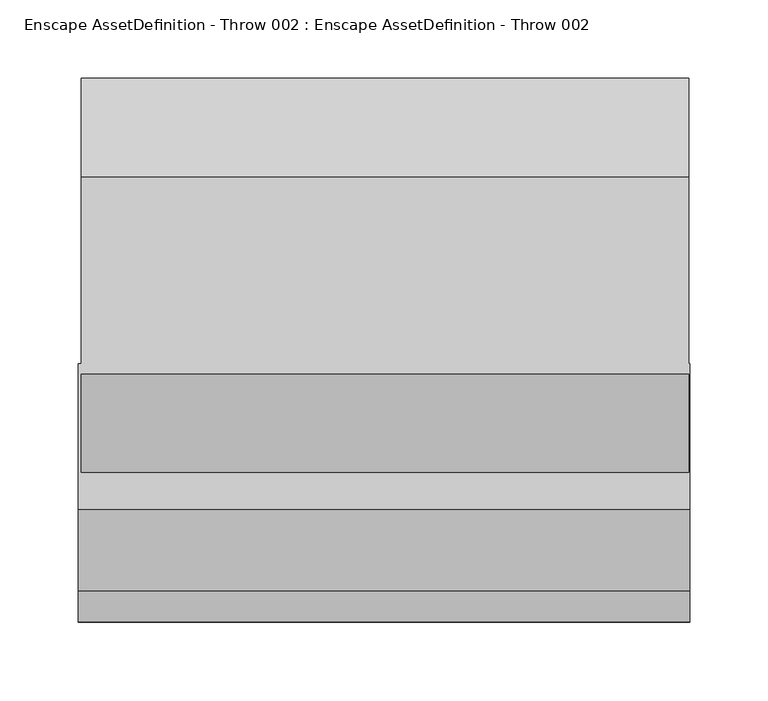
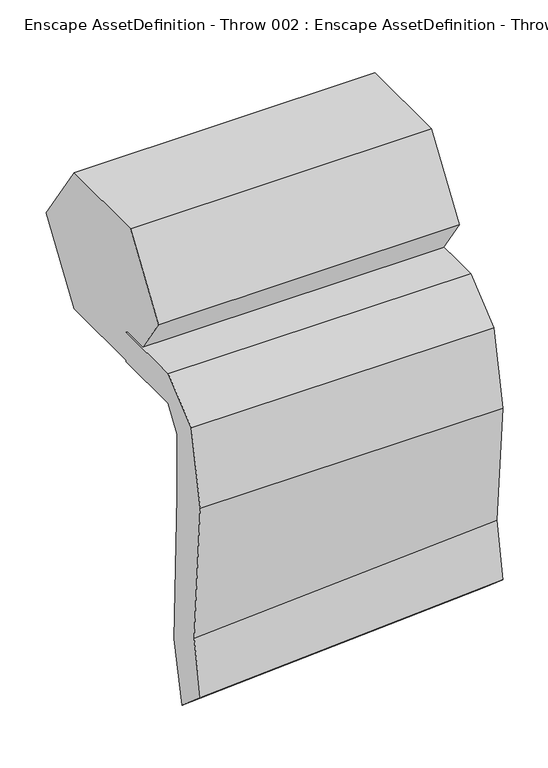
"""IFC4 building model written with IfcOpenShell, lengths in millimetres: geographic element geometry, Enscape AssetDefinition - Throw 002 : Enscape AssetDefinition - Throw 002."""

from ifc_helpers import new_model, si_unit, origin, place, context, project, spatial, triangles, source, transform, mapped, element, save


def enscape_assetdefinition_throw_002_enscape_assetdefinition_a0419d1c(model_context):
    return source(origin(), model_context, "Body", "Tessellation", [
        triangles([(194.3848283, -109.6898708, 41.3186716), (194.3848283, -16.4231913, 1.3240623), (-195.8327595, -109.6898526, 1.3240546), (194.3848283, -109.6898708, 1.3240546), (194.3847919, -161.2397402, -1.0213269), (194.3848283, -130.0184719, -28.4120239), (-195.8327595, -130.0184537, -28.4120239), (-195.8327414, -16.4231766, 1.3240546), (-195.8327414, -16.4231766, 41.3186535), (194.3848283, -16.4231913, 41.3186716), (-195.8327777, -161.2397221, -1.0213345), (-195.8327595, -109.6898526, 41.3186535), (194.3848283, -129.8877113, -112.8281422), (-195.8327595, -129.8877113, -112.8281603), (194.3848283, -181.0699252, -98.5914294), (194.3847919, -123.3210064, -287.0856743), (-195.8327595, -123.3209882, -311.1005602), (-195.8327777, -181.0698888, -98.5914657), (-195.8327595, -167.572039, -283.8525141), (194.3848283, -141.1208829, -366.931055), (-195.8327595, -141.1208829, -390.9459772), (194.3848283, -181.4910114, -332.3976251), (-195.8327595, -181.4910114, -356.4125836), (194.3848283, -167.572039, -259.8375737), (193.8757205, 40.0237107, 93.379302), (193.875666, -85.7079589, 93.379302), (-194.0055273, -22.8420991, 185.9690266), (193.8757205, -22.8421059, 0.789578), (-194.0055273, -85.7079316, 93.379293), (-194.0055273, -22.84209, 0.7895704), (193.875666, -22.8421173, 185.9690447), (193.875666, 102.889541, 185.9690447), (-194.0055273, 102.8895773, 185.9690084), (-194.0055091, 165.7553985, 93.379293), (-194.0055273, 40.0237334, 93.379293), (193.8757205, 102.8895319, 0.789578), (-194.0055091, 102.889541, 0.7895704), (193.8757205, 165.7553803, 93.379293)], [[32, 38, 34], [38, 37, 34], [38, 36, 37], [36, 30, 37], [37, 30, 35], [34, 37, 35], [33, 34, 35], [32, 34, 33], [31, 32, 33], [36, 38, 25], [38, 32, 25], [32, 31, 25], [36, 28, 30], [28, 36, 25], [30, 29, 35], [28, 29, 30], [27, 33, 35], [29, 27, 35], [31, 33, 27], [28, 26, 29], [26, 31, 27], [26, 28, 25], [31, 26, 25], [26, 27, 29], [1, 11, 5], [5, 11, 18], [5, 18, 15], [15, 18, 24], [18, 19, 24], [23, 22, 24], [19, 23, 24], [23, 21, 20], [22, 23, 20], [22, 20, 16], [24, 22, 16], [20, 21, 17], [17, 21, 23], [16, 20, 17], [17, 23, 19], [14, 17, 19], [18, 14, 19], [11, 14, 18], [13, 16, 17], [13, 15, 24], [14, 13, 17], [13, 24, 16], [6, 5, 15], [6, 15, 13], [7, 6, 13], [11, 7, 14], [7, 13, 14], [1, 12, 11], [12, 7, 11], [1, 9, 12], [1, 10, 9], [10, 8, 9], [8, 12, 9], [12, 3, 7], [8, 3, 12], [3, 6, 7], [3, 4, 6], [4, 1, 5], [4, 5, 6], [10, 2, 8], [2, 4, 3], [2, 10, 1], [2, 3, 8], [2, 1, 4]]),
    ])


if __name__ == "__main__":
    model = new_model("IFC4")
    model_context = context("Model", 3, world=origin())
    ifc_project = project(units=[si_unit("LENGTHUNIT", "METRE", prefix="MILLI")], contexts=[model_context])
    site = spatial("IfcSite", under=ifc_project)
    building = spatial("IfcBuilding", under=site)
    placement = place(None, origin())
    enscape_assetdefinition_throw_002_enscape_assetdefinition_shape = enscape_assetdefinition_throw_002_enscape_assetdefinition_a0419d1c(model_context)
    element("IfcGeographicElement", 1, ObjectType="Enscape AssetDefinition - Throw 002 : Enscape AssetDefinition - Throw 002", at=placement, inside=building, context=model_context, shape_type="MappedRepresentation", body=[
        mapped(enscape_assetdefinition_throw_002_enscape_assetdefinition_shape, transform((0.0, 0.0, 0.0), x_axis=(1.0, 0.0, 0.0), y_axis=(0.0, 1.0, 0.0), z_axis=(0.0, 0.0, 1.0))),
    ])
    save(model, "model.ifc")
